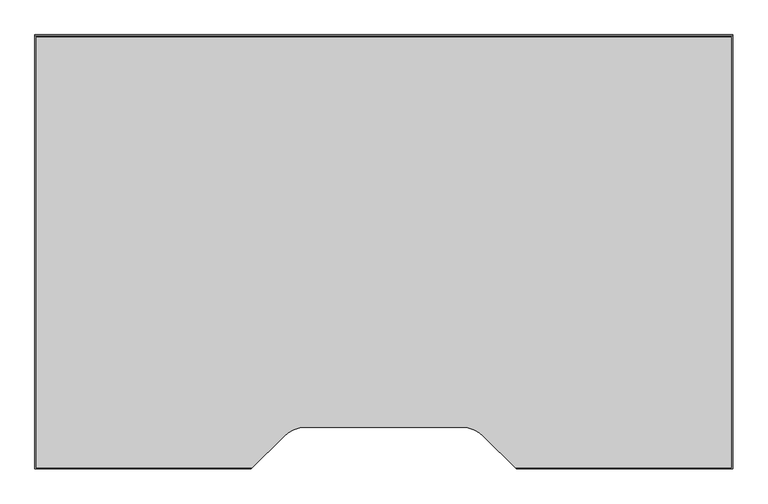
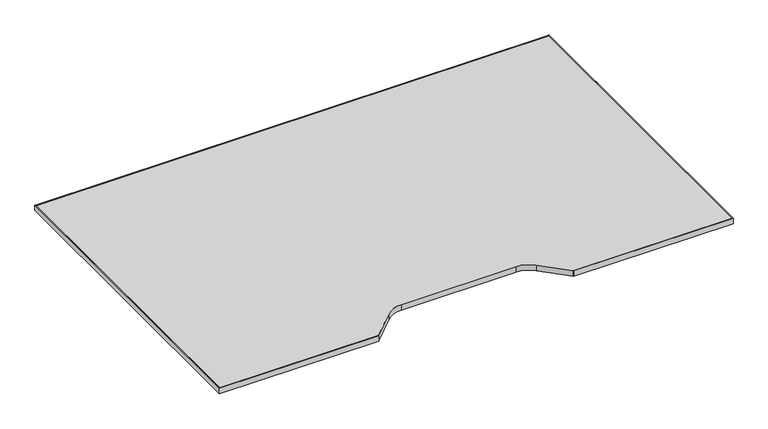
"""IFC4 building model written with IfcOpenShell, lengths in millimetres: furniture geometry, Steelcase Turnstone - Bivi - Table - Table Top : 30D x 48W."""

from ifc_helpers import new_model, si_unit, point, frame, frame_2d, origin, place, context, project, spatial, polyline, circle_curve, trimmed, segment, composite_curve, outline, extrude, source, transform, mapped, element, save
from ifc_brep_helpers import plane_surface, cylinder_surface, advanced_brep


def furniture_6d1c9745(model_context):
    return source(origin(), model_context, "Body", "SolidModel", [
        advanced_brep(
        [(514.3499939, -727.0750061, 723.566625), (514.3499939, -727.0750061, 710.485625), (515.3499939, -726.0750061, 710.485625), (515.3499939, -726.0750061, 723.566625), (957.8500067, -726.0750061, 723.566625), (957.8500067, -726.0750061, 710.485625), (958.8500061, -727.0750061, 710.485625), (958.8500061, -727.0750061, 723.566625), (1320.8, -727.0750061, 723.566625), (1320.8, -2.0320061, 723.566625), (152.4, -2.0320061, 723.566625), (152.4, -727.0750061, 723.566625), (153.4, -726.0750061, 723.566625), (153.4, -3.0000061, 723.566625), (1319.8, -3.0000061, 723.566625), (1319.8, -726.0750061, 723.566625), (1319.8, -3.0000061, 710.485625), (1319.8, -726.0750061, 710.485625), (153.4, -3.0000061, 710.485625), (153.4, -726.0750061, 710.485625), (152.4, -727.0750061, 710.485625), (152.4, -2.0320061, 710.485625), (1320.8, -2.0320061, 710.485625), (1320.8, -727.0750061, 710.485625), (1320.8, -6.1e-06, 712.517625), (1320.8, -6.1e-06, 721.534625), (152.4, -6.1e-06, 721.534625), (152.4, -6.1e-06, 712.517625)],
        [
            (0, 1),
            (1, 2),
            (2, 3),
            (3, 0),
            (4, 5),
            (5, 6),
            (6, 7),
            (7, 4),
            (8, 9),
            (9, 10),
            (10, 11),
            (11, 0),
            (3, 12),
            (12, 13),
            (13, 14),
            (14, 15),
            (15, 4),
            (7, 8),
            (14, 16),
            (16, 17),
            (17, 15),
            (16, 18),
            (18, 19),
            (19, 2),
            (1, 20),
            (20, 21),
            (21, 22),
            (22, 23),
            (23, 6),
            (5, 17),
            (8, 23),
            (22, 24, circle_curve(frame((1320.8, -2.0320061, 712.517625), z_axis=(1.0, 0.0, 0.0), x_axis=(0.0, -1.0, 0.0)), 2.032)),
            (24, 25),
            (25, 9, circle_curve(frame((1320.8, -2.0320061, 721.534625), z_axis=(1.0, 0.0, 0.0), x_axis=(0.0, -1.0, 0.0)), 2.032)),
            (19, 12),
            (11, 20),
            (18, 13),
            (10, 26, circle_curve(frame((152.4, -2.0320061, 721.534625), z_axis=(-1.0, 0.0, 0.0), x_axis=(0.0, -1.0, 0.0)), 2.032)),
            (26, 27),
            (27, 21, circle_curve(frame((152.4, -2.0320061, 712.517625), z_axis=(-1.0, 0.0, 0.0), x_axis=(0.0, -1.0, 0.0)), 2.032)),
            (27, 24),
            (26, 25),
        ],
        [
            plane_surface(frame((514.3499939, -727.0750061, 724.4389999), z_axis=(0.7071067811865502, -0.7071067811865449, 0.0), x_axis=(0.0, 0.0, -1.0))),
            plane_surface(frame((904.6973766, -672.9223408, 724.4389999), z_axis=(-0.7071070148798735, -0.7071065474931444, 0.0), x_axis=(0.0, 0.0, -1.0))),
            plane_surface(frame((1320.8, -3.0000061, 723.566625), z_axis=(0.0, 0.0, 1.0), x_axis=(0.0, -1.0, 0.0))),
            plane_surface(frame((1319.8, -3.0000061, 723.566625), z_axis=(-1.0, 0.0, 0.0), x_axis=(0.0, -1.0, 0.0))),
            plane_surface(frame((1319.8, -3.0000061, 710.485625), z_axis=(0.0, 0.0, -1.0), x_axis=(0.0, -1.0, 0.0))),
            plane_surface(frame((1320.8, -3.0000061, 710.485625), z_axis=(1.0, 0.0, 0.0), x_axis=(0.0, -1.0, 0.0))),
            plane_surface(frame((1319.8, -726.0750061, 723.566625), z_axis=(0.0, 1.0, 0.0), x_axis=(-1.0, 0.0, 0.0))),
            plane_surface(frame((1320.8, -727.0750061, 710.485625), z_axis=(0.0, -1.0, 0.0), x_axis=(-1.0, 0.0, 0.0))),
            plane_surface(frame((153.4, -726.0750061, 723.566625), z_axis=(1.0, 0.0, 0.0), x_axis=(0.0, 1.0, 0.0))),
            plane_surface(frame((152.4, -727.0750061, 710.485625), z_axis=(-1.0, 0.0, 0.0), x_axis=(0.0, 1.0, 0.0))),
            cylinder_surface(frame((152.4, -2.0320061, 712.517625), z_axis=(-1.0, 0.0, 0.0), x_axis=(0.0, -1.0, 0.0)), 2.032),
            plane_surface(frame((152.4, -6.1e-06, 712.517625), z_axis=(0.0, 1.0, 0.0), x_axis=(1.0, 0.0, 0.0))),
            cylinder_surface(frame((152.4, -2.0320061, 721.534625), z_axis=(-1.0, 0.0, 0.0), x_axis=(0.0, -1.0, 0.0)), 2.032),
            plane_surface(frame((152.4, -3.0000061, 723.566625), z_axis=(0.0, -1.0, 0.0), x_axis=(1.0, 0.0, 0.0))),
        ],
        [
            (0, [[1, 2, 3, 4]]),
            (1, [[5, 6, 7, 8]]),
            (2, [[9, 10, 11, 12, -4, 13, 14, 15, 16, 17, -8, 18]]),
            (3, [[19, 20, 21, -16]]),
            (4, [[22, 23, 24, -2, 25, 26, 27, 28, 29, -6, 30, -20]]),
            (5, [[31, -28, 32, 33, 34, -9]]),
            (6, [[-13, -3, -24, 35]]),
            (6, [[-30, -5, -17, -21]]),
            (7, [[-18, -7, -29, -31]]),
            (7, [[-25, -1, -12, 36]]),
            (8, [[-35, -23, 37, -14]]),
            (9, [[38, 39, 40, -26, -36, -11]]),
            (10, [[41, -32, -27, -40]]),
            (11, [[42, -33, -41, -39]]),
            (12, [[-10, -34, -42, -38]]),
            (13, [[-19, -15, -37, -22]]),
        ],
    ),
        extrude(outline(composite_curve([segment(polyline([(1319.8, -726.0750061), (957.8500067, -726.0750061), (904.6973766, -672.9223408)]), True, "CONTINUOUS"), segment(trimmed(circle_curve(frame_2d((866.8006832, -710.8190091)), 53.594), [point((904.6973766, -672.9223408))], [point((866.8006832, -657.2250091))], True, "CARTESIAN"), True, "CONTINUOUS"), segment(polyline([(866.8006832, -657.2250091), (606.3859497, -657.2250091)]), True, "CONTINUOUS"), segment(trimmed(circle_curve(frame_2d((606.3859497, -710.7866517)), 53.5616426), [point((606.3859497, -657.2250091))], [point((568.512149, -672.912851))], True, "CARTESIAN"), True, "CONTINUOUS"), segment(polyline([(568.512149, -672.912851), (515.3499939, -726.0750061), (153.4, -726.0750061), (153.4, -3.0000061), (1319.8, -3.0000061), (1319.8, -726.0750061)]), True, "CONTINUOUS")], self_intersect=False)), frame((0.0, 0.0, 710.485625), z_axis=(0.0, 0.0, 1.0), x_axis=(1.0, 0.0, 0.0)), (0.0, 0.0, 1.0), 13.081),
    ])


if __name__ == "__main__":
    model = new_model("IFC4")
    model_context = context("Model", 3, world=origin())
    ifc_project = project(units=[si_unit("LENGTHUNIT", "METRE", prefix="MILLI")], contexts=[model_context])
    site = spatial("IfcSite", under=ifc_project)
    building = spatial("IfcBuilding", under=site)
    placement = place(None, origin())
    furniture_shape = furniture_6d1c9745(model_context)
    element("IfcFurniture", 1, ObjectType="Steelcase Turnstone - Bivi - Table - Table Top : 30D x 48W", at=placement, inside=building, context=model_context, shape_type="MappedRepresentation", body=[
        mapped(furniture_shape, transform((0.0, 0.0, 0.0), x_axis=(1.0, 0.0, 0.0), y_axis=(0.0, 1.0, 0.0), z_axis=(0.0, 0.0, 1.0))),
    ])
    save(model, "model.ifc")
